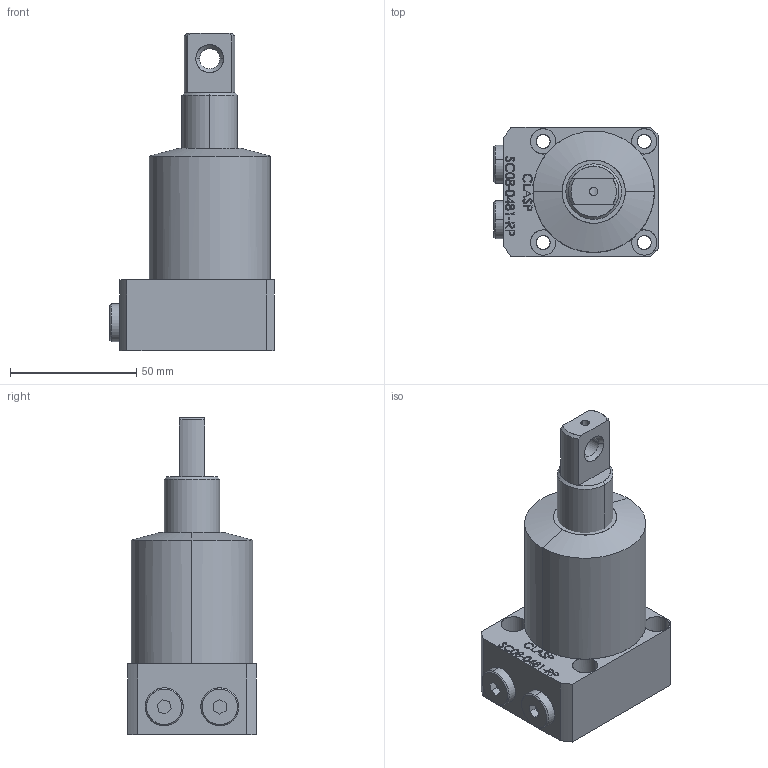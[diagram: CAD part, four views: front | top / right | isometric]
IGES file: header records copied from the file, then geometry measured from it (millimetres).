
Start section: SolidWorks IGES file using analytic representation for surfaces
Global section: file name: D:\karuppas\Clasp\3D model\SWING CYLINDER\Bottom Mounting swing cylinder-P type\SC08-0481-RP\SC08-0481-RP.IGS; native system: SolidWorks 2017; preprocessor: SolidWorks 2017; author: pc; date: 220708.223117; units: millimetre
Bounding box: 65 x 51 x 125.5 mm (x, y, z)
Surface area: 30742.4 mm2 (no closed solid volume)
Topology: 0 solids, 0 shells, 342 faces, 5299 edges, 5299 vertices
Faces by surface type: bspline 274, revolution 68
